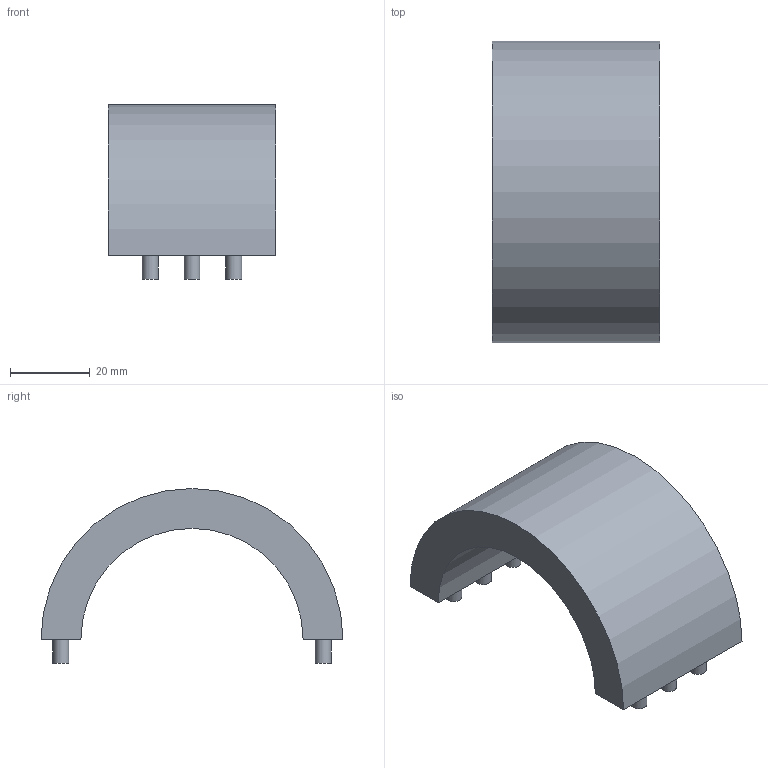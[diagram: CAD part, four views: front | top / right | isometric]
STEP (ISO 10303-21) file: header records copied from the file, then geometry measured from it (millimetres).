
FILE_DESCRIPTION(/* description */ (''),/* implementation_level */ '2;1');
FILE_NAME(/* name */ '',/* time_stamp */ '2025-07-04T12:36:17+03:00',/* author */ ('Inspektor_Kot'),/* organization */ (''),/* preprocessor_version */ 'ST-DEVELOPER v20',/* originating_system */ 'Autodesk Inventor 2025',/* authorisation */ '');
FILE_SCHEMA (('AUTOMOTIVE_DESIGN { 1 0 10303 214 3 1 1 }'));
Length unit declared in the file: millimetre
Products named in the file (1): Боковая крышка
Bounding box: 42 x 75.71 x 43.86 mm (x, y, z)
Volume: 43804.1 mm3; surface area: 12027.1 mm2
Topology: 1 solids, 1 shells, 18 faces, 30 edges, 20 vertices
Faces by surface type: plane 10, cylinder 8
Full cylindrical faces by diameter (mm): 4 x6
Entity records: 473 total; most frequent: DIRECTION 84, CARTESIAN_POINT 69, ORIENTED_EDGE 60, AXIS2_PLACEMENT_3D 35, EDGE_CURVE 30, EDGE_LOOP 24, VERTEX_POINT 20, FACE_OUTER_BOUND 18
